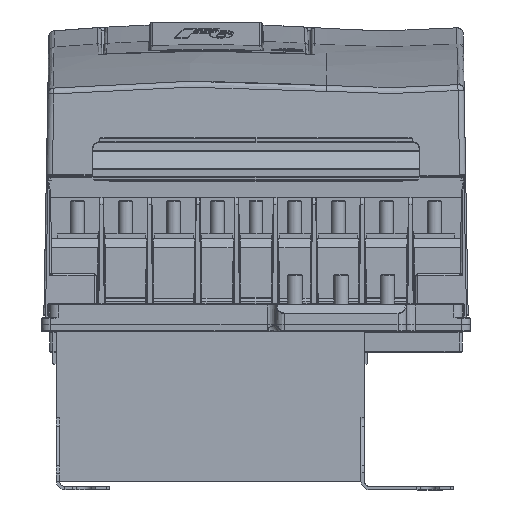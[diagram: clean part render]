
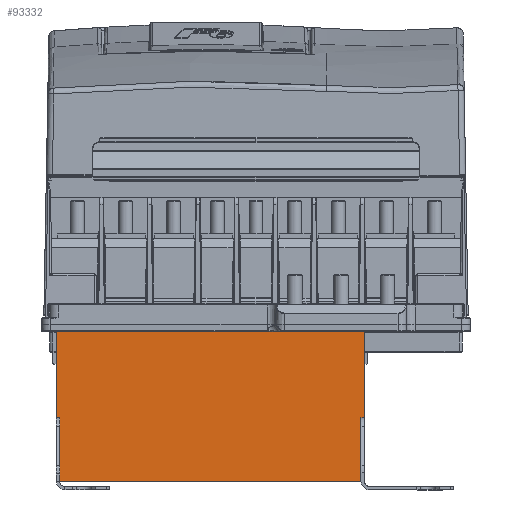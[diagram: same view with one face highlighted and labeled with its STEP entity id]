
A CAD part, front view. The second image highlights one B-rep face of the part: STEP entity #93332.
In plain terms, the highlighted planar face has unit normal (0, -1, 0).
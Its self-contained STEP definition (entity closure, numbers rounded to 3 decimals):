
#57 = DIRECTION ( 'NONE',  ( 0., 0., 1. ) ) ;
#1052 = VERTEX_POINT ( 'NONE', #49616 ) ;
#2662 = DIRECTION ( 'NONE',  ( 0., 1., 0. ) ) ;
#4341 = VERTEX_POINT ( 'NONE', #90145 ) ;
#5609 = CARTESIAN_POINT ( 'NONE',  ( 0., -63., -22. ) ) ;
#6479 = VERTEX_POINT ( 'NONE', #83531 ) ;
#6545 = VERTEX_POINT ( 'NONE', #30748 ) ;
#6986 = LINE ( 'NONE', #81605, #26245 ) ;
#10189 = LINE ( 'NONE', #39742, #33559 ) ;
#11023 = VERTEX_POINT ( 'NONE', #20090 ) ;
#12720 = CARTESIAN_POINT ( 'NONE',  ( -89.5, -63., -59. ) ) ;
#15955 = EDGE_CURVE ( 'NONE', #4341, #38885, #74084, .T. ) ;
#18028 = EDGE_CURVE ( 'NONE', #62189, #6545, #26756, .T. ) ;
#18670 = CARTESIAN_POINT ( 'NONE',  ( -89.5, -63., 28. ) ) ;
#19282 = EDGE_CURVE ( 'NONE', #11023, #6479, #10189, .T. ) ;
#20090 = CARTESIAN_POINT ( 'NONE',  ( -87.5, -63., -22. ) ) ;
#21880 = EDGE_LOOP ( 'NONE', ( #36725, #34403, #40773, #92299, #52096, #48488, #52322, #67540 ) ) ;
#21896 = LINE ( 'NONE', #12720, #94564 ) ;
#22563 = EDGE_CURVE ( 'NONE', #4341, #6545, #58894, .T. ) ;
#23497 = EDGE_CURVE ( 'NONE', #38885, #71752, #81834, .T. ) ;
#25422 = CARTESIAN_POINT ( 'NONE',  ( 0., -63., 0. ) ) ;
#26245 = VECTOR ( 'NONE', #58846, 1000. ) ;
#26756 = LINE ( 'NONE', #35936, #65930 ) ;
#26862 = DIRECTION ( 'NONE',  ( 0., 0., 1. ) ) ;
#27932 = VECTOR ( 'NONE', #74557, 1000. ) ;
#29174 = DIRECTION ( 'NONE',  ( 1., 0., 0. ) ) ;
#29646 = CARTESIAN_POINT ( 'NONE',  ( -89.5, -63., -22. ) ) ;
#29923 = CARTESIAN_POINT ( 'NONE',  ( 87.5, -63., -59. ) ) ;
#29990 = DIRECTION ( 'NONE',  ( 0., 0., 1. ) ) ;
#30092 = DIRECTION ( 'NONE',  ( 0., 0., -1. ) ) ;
#30748 = CARTESIAN_POINT ( 'NONE',  ( 87.5, -63., -22. ) ) ;
#32218 = AXIS2_PLACEMENT_3D ( 'NONE', #25422, #2662, #26862 ) ;
#33559 = VECTOR ( 'NONE', #30092, 1000. ) ;
#34403 = ORIENTED_EDGE ( 'NONE', *, *, #18028, .T. ) ;
#35178 = DIRECTION ( 'NONE',  ( -1., 0., 0. ) ) ;
#35936 = CARTESIAN_POINT ( 'NONE',  ( 87.5, -63., 0. ) ) ;
#36725 = ORIENTED_EDGE ( 'NONE', *, *, #64728, .T. ) ;
#37165 = CARTESIAN_POINT ( 'NONE',  ( -89.5, -63., 28. ) ) ;
#37298 = VECTOR ( 'NONE', #29174, 1000. ) ;
#38885 = VERTEX_POINT ( 'NONE', #67007 ) ;
#39742 = CARTESIAN_POINT ( 'NONE',  ( -87.5, -63., -36. ) ) ;
#40773 = ORIENTED_EDGE ( 'NONE', *, *, #22563, .F. ) ;
#42787 = EDGE_CURVE ( 'NONE', #71752, #1052, #21896, .T. ) ;
#42798 = EDGE_CURVE ( 'NONE', #1052, #11023, #65023, .T. ) ;
#44183 = DIRECTION ( 'NONE',  ( 0., 0., -1. ) ) ;
#48488 = ORIENTED_EDGE ( 'NONE', *, *, #42787, .T. ) ;
#49616 = CARTESIAN_POINT ( 'NONE',  ( -89.5, -63., -22. ) ) ;
#52096 = ORIENTED_EDGE ( 'NONE', *, *, #23497, .T. ) ;
#52322 = ORIENTED_EDGE ( 'NONE', *, *, #42798, .T. ) ;
#58846 = DIRECTION ( 'NONE',  ( 1., 0., 0. ) ) ;
#58894 = LINE ( 'NONE', #5609, #72673 ) ;
#59548 = CARTESIAN_POINT ( 'NONE',  ( 89.5, -63., -59. ) ) ;
#62189 = VERTEX_POINT ( 'NONE', #29923 ) ;
#62231 = PLANE ( 'NONE',  #32218 ) ;
#64728 = EDGE_CURVE ( 'NONE', #6479, #62189, #6986, .T. ) ;
#65023 = LINE ( 'NONE', #29646, #37298 ) ;
#65930 = VECTOR ( 'NONE', #57, 1000. ) ;
#67007 = CARTESIAN_POINT ( 'NONE',  ( 89.5, -63., 28. ) ) ;
#67540 = ORIENTED_EDGE ( 'NONE', *, *, #19282, .T. ) ;
#71752 = VERTEX_POINT ( 'NONE', #37165 ) ;
#72673 = VECTOR ( 'NONE', #35178, 1000. ) ;
#74084 = LINE ( 'NONE', #59548, #81245 ) ;
#74557 = DIRECTION ( 'NONE',  ( -1., 0., 0. ) ) ;
#81245 = VECTOR ( 'NONE', #29990, 1000. ) ;
#81605 = CARTESIAN_POINT ( 'NONE',  ( -89.5, -63., -59. ) ) ;
#81834 = LINE ( 'NONE', #18670, #27932 ) ;
#83531 = CARTESIAN_POINT ( 'NONE',  ( -87.5, -63., -59. ) ) ;
#90145 = CARTESIAN_POINT ( 'NONE',  ( 89.5, -63., -22. ) ) ;
#92299 = ORIENTED_EDGE ( 'NONE', *, *, #15955, .T. ) ;
#93238 = FACE_OUTER_BOUND ( 'NONE', #21880, .T. ) ;
#93332 = ADVANCED_FACE ( 'NONE', ( #93238 ), #62231, .F. ) ;
#94564 = VECTOR ( 'NONE', #44183, 1000. ) ;
